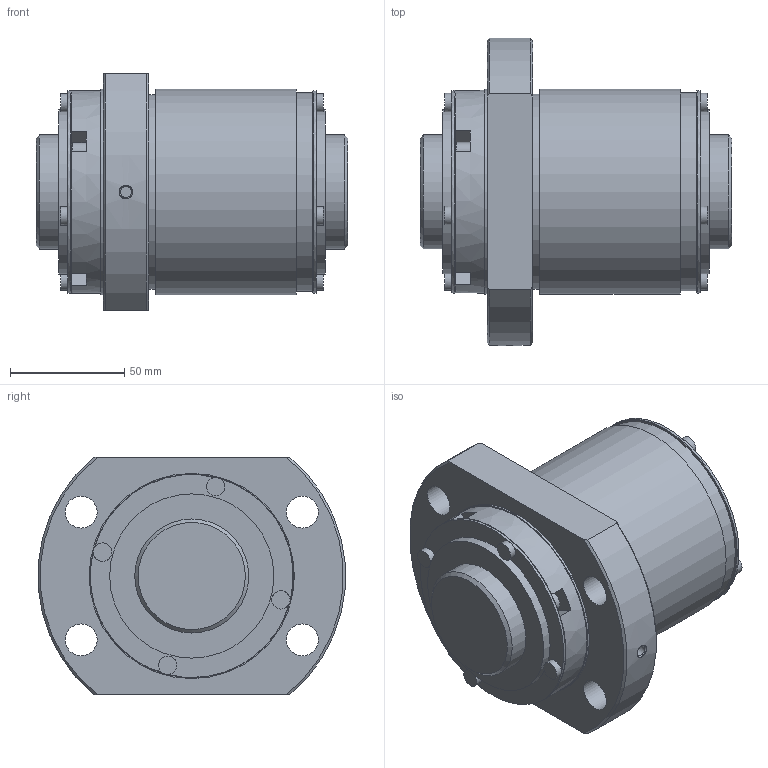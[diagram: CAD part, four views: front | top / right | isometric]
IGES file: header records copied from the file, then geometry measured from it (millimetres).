
Start section: Data from Parasolid IGES Translator 26.0.171, Copyright(c) 2006 Siemens PLM Software. All Rights Reserved.
Global section: file name: BLK5050-3.6ZZG1+136.8LC3_0_1300.igs; native system: By Siemens PLM Incorporated; preprocessor: XPlus GENERIC/IGES 26.0.171; author: Noname; organization: Noname; date: 20250116.070520; units: millimetre
Bounding box: 136.8 x 134.78 x 104 mm (x, y, z)
Surface area: 107554.9 mm2 (no closed solid volume)
Topology: 0 solids, 0 shells, 156 faces, 736 edges, 676 vertices
Faces by surface type: extrusion 95, revolution 61
